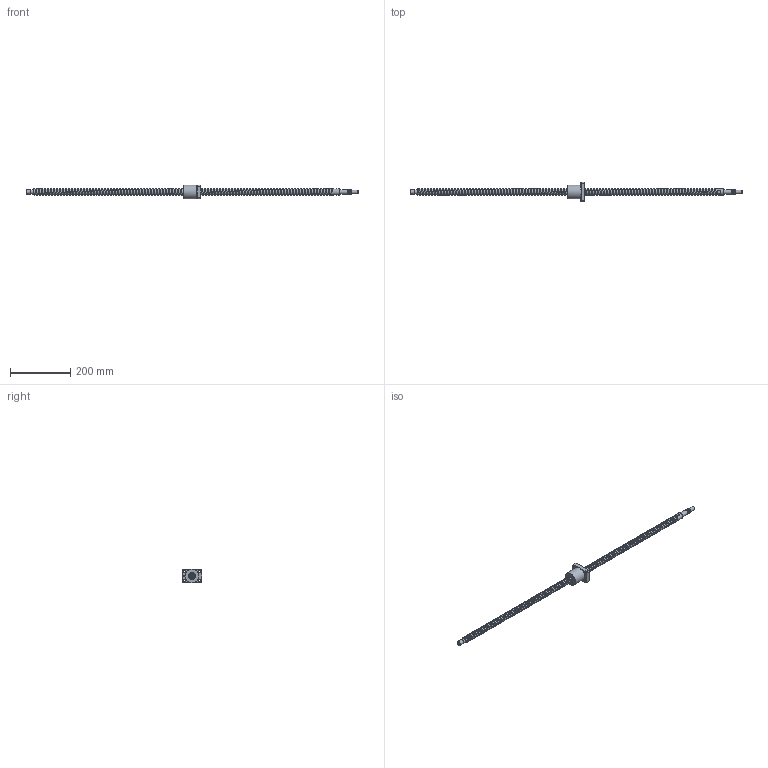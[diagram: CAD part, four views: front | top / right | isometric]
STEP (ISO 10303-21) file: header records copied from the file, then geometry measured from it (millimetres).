
FILE_DESCRIPTION (( 'STEP AP203' ), '1' );
FILE_NAME ('XSVR02010B1DGC5-1099-P1.step', '2024-06-03T06:19:49', ( '' ), ( '' ), 'SwSTEP 2.0', 'SolidWorks 2022', '' );
FILE_SCHEMA (( 'CONFIG_CONTROL_DESIGN' ));
Length unit declared in the file: millimetre
Products named in the file (1): XSVR02010B1DGC5-1099-P1
Bounding box: 1099 x 66 x 46 mm (x, y, z)
Volume: 395955.9 mm3; surface area: 93076.5 mm2
Topology: 2 solids, 2 shells, 259 faces, 726 edges, 479 vertices
Faces by surface type: cylinder 159, plane 40, bspline 31, cone 20, torus 9
Full cylindrical faces by diameter (mm): 4 x1, 5 x15, 6.6 x4, 11 x4, 12 x1, 14.3 x1, 15 x16, 20 x99, 22.3 x1, 46 x1
Entity records: 33659 total; most frequent: CARTESIAN_POINT 31001, ORIENTED_EDGE 594, DIRECTION 409, EDGE_CURVE 297, VERTEX_POINT 212, EDGE_LOOP 187, AXIS2_PLACEMENT_3D 179, FACE_OUTER_BOUND 150
